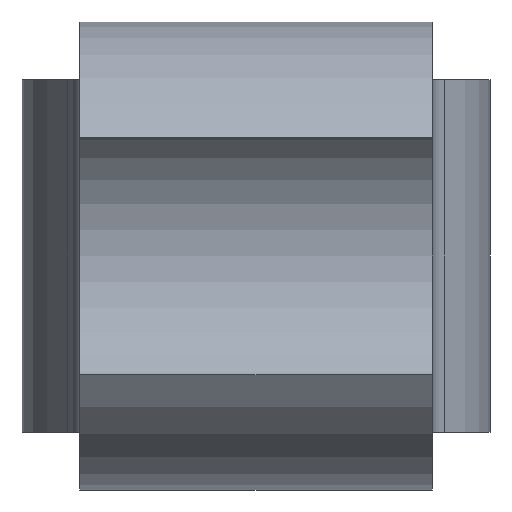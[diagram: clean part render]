
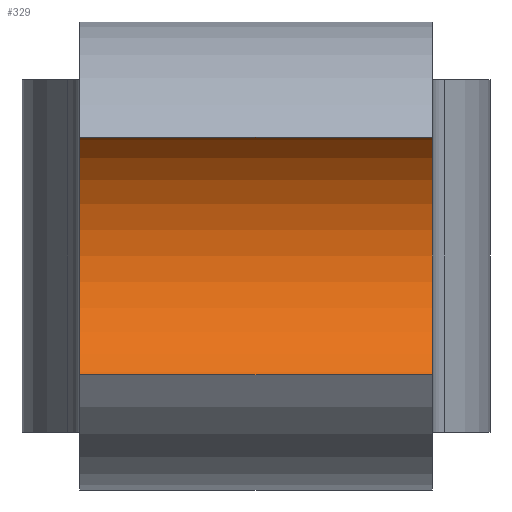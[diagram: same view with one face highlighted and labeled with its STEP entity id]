
A CAD part, front view. The second image highlights one B-rep face of the part: STEP entity #329.
In plain terms, the highlighted cylindrical face has radius 5.15 mm (diameter 10.3 mm), a partial arc.
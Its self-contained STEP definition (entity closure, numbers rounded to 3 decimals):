
#35=FACE_OUTER_BOUND('',#53,.T.);
#53=EDGE_LOOP('',(#283,#284,#285,#286));
#81=LINE('',#575,#105);
#82=LINE('',#577,#106);
#105=VECTOR('',#457,11.9);
#106=VECTOR('',#460,11.9);
#121=CIRCLE('',#351,5.15);
#125=CIRCLE('',#357,5.15);
#148=VERTEX_POINT('',#527);
#149=VERTEX_POINT('',#529);
#155=VERTEX_POINT('',#548);
#156=VERTEX_POINT('',#550);
#183=EDGE_CURVE('',#149,#148,#121,.T.);
#192=EDGE_CURVE('',#156,#155,#125,.T.);
#205=EDGE_CURVE('',#148,#156,#81,.T.);
#206=EDGE_CURVE('',#155,#149,#82,.T.);
#283=ORIENTED_EDGE('',*,*,#192,.T.);
#284=ORIENTED_EDGE('',*,*,#206,.T.);
#285=ORIENTED_EDGE('',*,*,#183,.T.);
#286=ORIENTED_EDGE('',*,*,#205,.T.);
#313=CYLINDRICAL_SURFACE('',#369,5.15);
#329=ADVANCED_FACE('',(#35),#313,.F.);
#351=AXIS2_PLACEMENT_3D('',#530,#412,#413);
#357=AXIS2_PLACEMENT_3D('',#551,#428,#429);
#369=AXIS2_PLACEMENT_3D('',#578,#461,#462);
#412=DIRECTION('center_axis',(1.,0.,0.));
#413=DIRECTION('ref_axis',(0.,-1.,0.));
#428=DIRECTION('center_axis',(-1.,0.,0.));
#429=DIRECTION('ref_axis',(0.,-1.,0.));
#457=DIRECTION('',(-1.,0.,0.));
#460=DIRECTION('',(1.,0.,0.));
#461=DIRECTION('center_axis',(1.,0.,0.));
#462=DIRECTION('ref_axis',(0.,-1.,0.));
#527=CARTESIAN_POINT('',(5.95,-14.919,4.));
#529=CARTESIAN_POINT('',(5.95,-14.919,-4.));
#530=CARTESIAN_POINT('Origin',(5.95,-11.675,0.));
#548=CARTESIAN_POINT('',(-5.95,-14.919,-4.));
#550=CARTESIAN_POINT('',(-5.95,-14.919,4.));
#551=CARTESIAN_POINT('Origin',(-5.95,-11.675,0.));
#575=CARTESIAN_POINT('',(0.,-14.919,4.));
#577=CARTESIAN_POINT('',(0.,-14.919,-4.));
#578=CARTESIAN_POINT('Origin',(0.,-11.675,0.));
